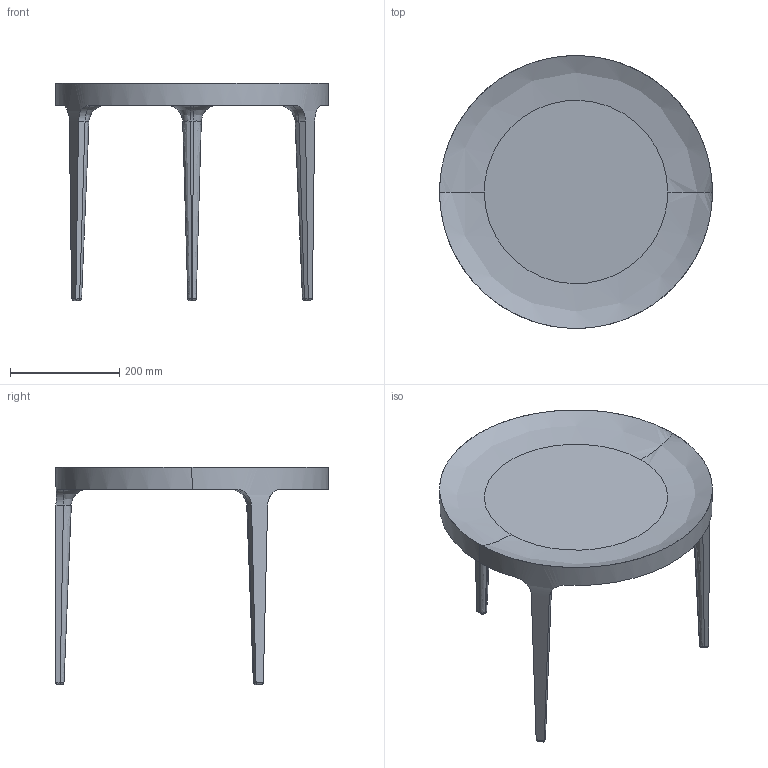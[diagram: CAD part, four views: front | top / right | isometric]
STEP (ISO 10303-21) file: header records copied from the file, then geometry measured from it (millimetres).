
FILE_DESCRIPTION(/* description */ (''),/* implementation_level */ '2;1');
FILE_NAME(/* name */ 'GHOSTC~1',/* time_stamp */ '2017-08-01T11:54:55+02:00',/* author */ (''),/* organization */ (''),/* preprocessor_version */ 'ST-DEVELOPER v14',/* originating_system */ '',/* authorisation */ '');
FILE_SCHEMA (('CONFIG_CONTROL_DESIGN'));
Length unit declared in the file: millimetre
Products named in the file (1): Document
Bounding box: 500 x 500 x 399.62 mm (x, y, z)
Volume: 3221332.2 mm3; surface area: 567940.8 mm2
Topology: 1 solids, 1 shells, 98 faces, 226 edges, 132 vertices
Faces by surface type: bspline 82, plane 16
Entity records: 10543 total; most frequent: CARTESIAN_POINT 7664, B_SPLINE_CURVE_WITH_KNOTS 501, ORIENTED_EDGE 452, PCURVE 452, DEFINITIONAL_REPRESENTATION 452, SURFACE_CURVE 226, EDGE_CURVE 226, VERTEX_POINT 132
